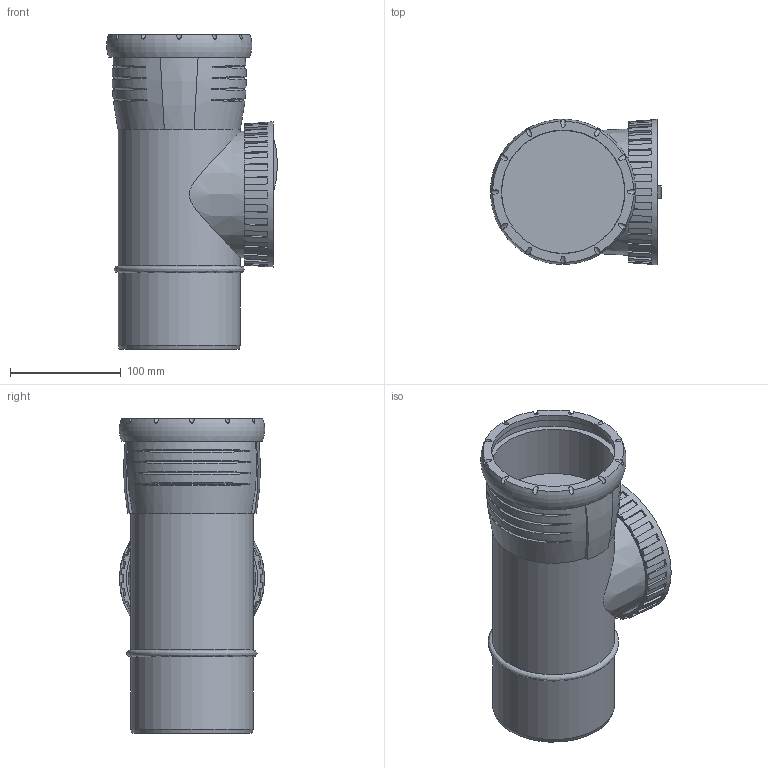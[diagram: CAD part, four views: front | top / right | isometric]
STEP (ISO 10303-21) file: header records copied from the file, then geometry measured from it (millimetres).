
FILE_DESCRIPTION(/* description */ (''),/* implementation_level */ '2;1');
FILE_NAME(/* name */ 'H:\Geberit-Teile\Export\Rein Stück PP\stp\393527.stp',/* time_stamp */ '2017-02-13T15:12:00+01:00',/* author */ ('seihe2'),/* organization */ (''),/* preprocessor_version */ 'ST-DEVELOPER v15.2',/* originating_system */ 'Autodesk Inventor 2014',/* authorisation */ '');
FILE_SCHEMA (('AUTOMOTIVE_DESIGN { 1 0 10303 214 3 1 1 }'));
Length unit declared in the file: millimetre
Products named in the file (1): 393527
Bounding box: 154.03 x 131 x 283.5 mm (x, y, z)
Volume: 2369852.6 mm3; surface area: 285713.5 mm2
Topology: 5 solids, 5 shells, 205 faces, 555 edges, 374 vertices
Faces by surface type: plane 148, cylinder 23, bspline 23, cone 10, torus 1
Full cylindrical faces by diameter (mm): 90 x1, 101.2 x1, 110.2 x3, 111 x1, 111.3 x1, 114.6 x1, 121.5 x1
Entity records: 8817 total; most frequent: CARTESIAN_POINT 3799, ORIENTED_EDGE 1064, DIRECTION 896, EDGE_CURVE 531, VERTEX_POINT 367, AXIS2_PLACEMENT_3D 317, LINE 262, VECTOR 262
